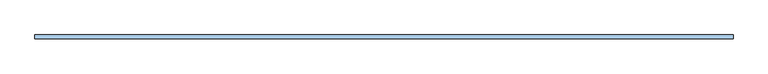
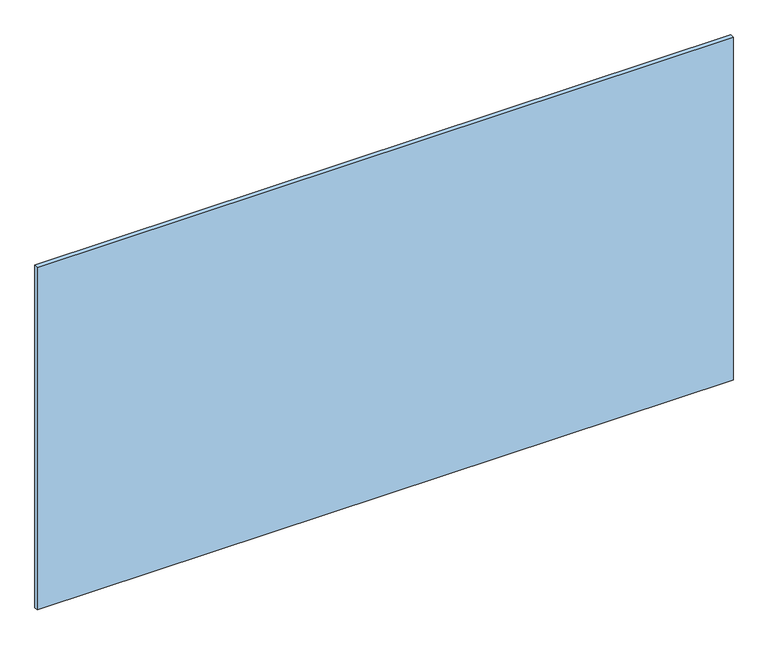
"""IFC4 building model written with IfcOpenShell, lengths in millimetres: window geometry, espejo biselado sin marco : ESP-6 espejo biselado 130 x 103."""

from ifc_helpers import new_model, si_unit, origin, origin_with_axes, place, context, project, spatial, polyline, outline, extrude, source, transform, mapped, element, save


def window_e1df7b10(model_context):
    return source(origin(), model_context, "Body", "SweptSolid", [
        extrude(outline(polyline([(-960.0, 79.0), (-960.0, 90.0), (960.0, 90.0), (960.0, 79.0), (-960.0, 79.0)])), origin_with_axes(), (0.0, 0.0, 1.0), 1000.0),
    ])


if __name__ == "__main__":
    model = new_model("IFC4")
    model_context = context("Model", 3, world=origin())
    ifc_project = project(units=[si_unit("LENGTHUNIT", "METRE", prefix="MILLI")], contexts=[model_context])
    site = spatial("IfcSite", under=ifc_project)
    building = spatial("IfcBuilding", under=site)
    placement = place(None, origin())
    window_shape = window_e1df7b10(model_context)
    element("IfcWindow", 1, ObjectType="espejo biselado sin marco : ESP-6 espejo biselado 130 x 103", at=placement, inside=building, context=model_context, shape_type="MappedRepresentation", body=[
        mapped(window_shape, transform((0.0, 0.0, 0.0), x_axis=(1.0, 0.0, 0.0), y_axis=(0.0, 1.0, 0.0), z_axis=(0.0, 0.0, 1.0))),
    ])
    save(model, "model.ifc")
